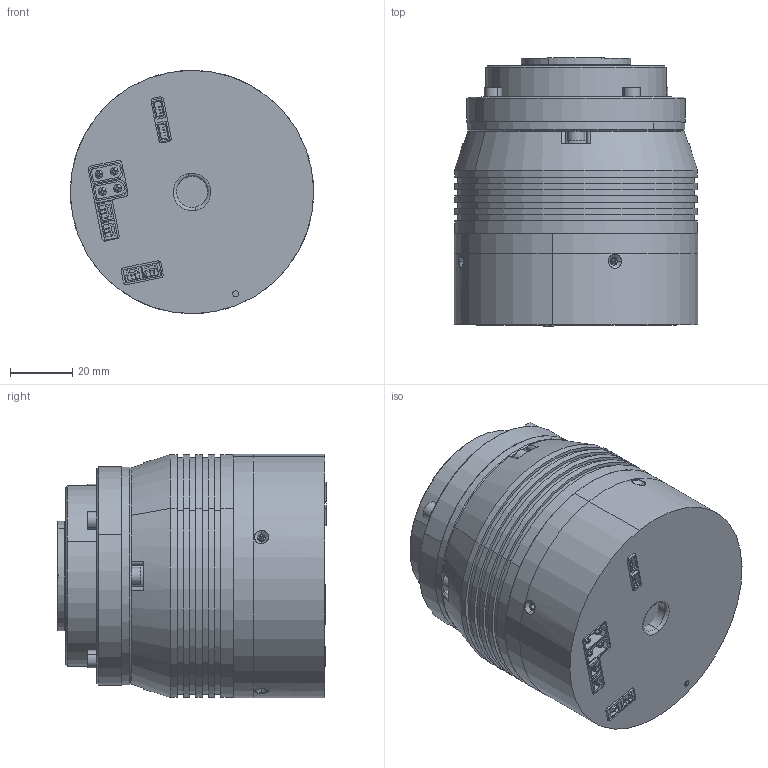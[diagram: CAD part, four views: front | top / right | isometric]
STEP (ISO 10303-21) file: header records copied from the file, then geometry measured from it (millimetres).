
FILE_DESCRIPTION (( 'STEP AP203' ), '1' );
FILE_NAME ('CEM-45.STEP', '2025-07-08T08:04:10', ( 'China' ), ( 'Microsoft' ), 'SwSTEP 2.0', 'SolidWorks 2020', '' );
FILE_SCHEMA (( 'CONFIG_CONTROL_DESIGN' ));
Length unit declared in the file: millimetre
Products named in the file (1): CEM-45
Bounding box: 77.98 x 85.89 x 77.98 mm (x, y, z)
Surface area: 55872.6 mm2 (no closed solid volume)
Topology: 0 solids, 75 shells, 662 faces, 3106 edges, 2526 vertices
Faces by surface type: plane 394, cylinder 214, cone 26, sphere 16, bspline 8, torus 4
Entity records: 32592 total; most frequent: CARTESIAN_POINT 7183, DIRECTION 5454, ORIENTED_EDGE 4267, EDGE_CURVE 3106, VERTEX_POINT 2526, LINE 1940, VECTOR 1940, AXIS2_PLACEMENT_3D 1757
